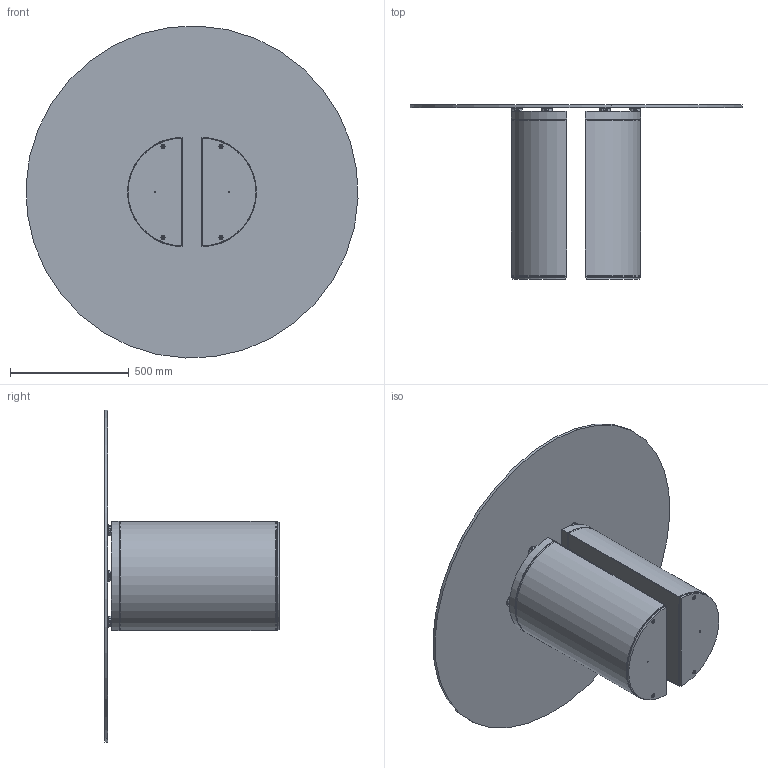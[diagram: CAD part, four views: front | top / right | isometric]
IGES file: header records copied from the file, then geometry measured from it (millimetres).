
Start section: SolidWorks IGES file using analytic representation for surfaces
Global section: file name: Y:\eforma\TECNICO\SOLIDWORKS\E-FORMA\1-TAVOLI\DORA\02 parts\140.IGS; native system: SolidWorks 2022; preprocessor: SolidWorks 2022; author: eforma.tech; date: 240806.162746; units: millimetre
Bounding box: 1398.96 x 735.5 x 1398.96 mm (x, y, z)
Volume: 29979724 mm3; surface area: 7486108.6 mm2
Topology: 37 solids, 37 shells, 734 faces, 1634 edges, 982 vertices
Faces by surface type: revolution 436, plane 286, bspline 12
